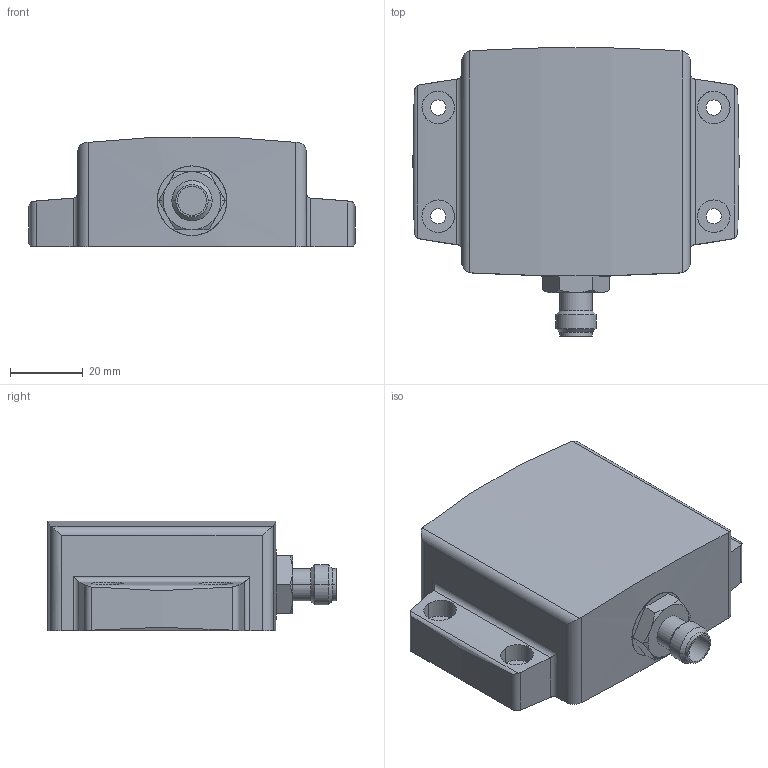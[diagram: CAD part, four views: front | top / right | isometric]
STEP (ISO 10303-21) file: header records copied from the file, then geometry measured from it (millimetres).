
FILE_DESCRIPTION( ( '' ), '1' );
FILE_NAME( '//expscmdclustefs.cadenas.external/client_exchange/iodir/jobs/output/wkb51954417_no0/STEP/ANT805_2_03.stp', '2012-12-04T14:57:29', ( '' ), ( '' ), ' ', ' ', ' ' );
FILE_SCHEMA( ( 'CONFIG_CONTROL_DESIGN' ) );
Length unit declared in the file: millimetre
Products named in the file (1): 1
Bounding box: 90 x 79.47 x 30.31 mm (x, y, z)
Volume: 132164.1 mm3; surface area: 19238.4 mm2
Topology: 1 solids, 1 shells, 88 faces, 224 edges, 146 vertices
Faces by surface type: cylinder 59, plane 17, cone 12
Entity records: 3256 total; most frequent: CARTESIAN_POINT 1137, ORIENTED_EDGE 448, DIRECTION 410, EDGE_CURVE 224, AXIS2_PLACEMENT_3D 163, VERTEX_POINT 146, EDGE_LOOP 104, ADVANCED_FACE 88
